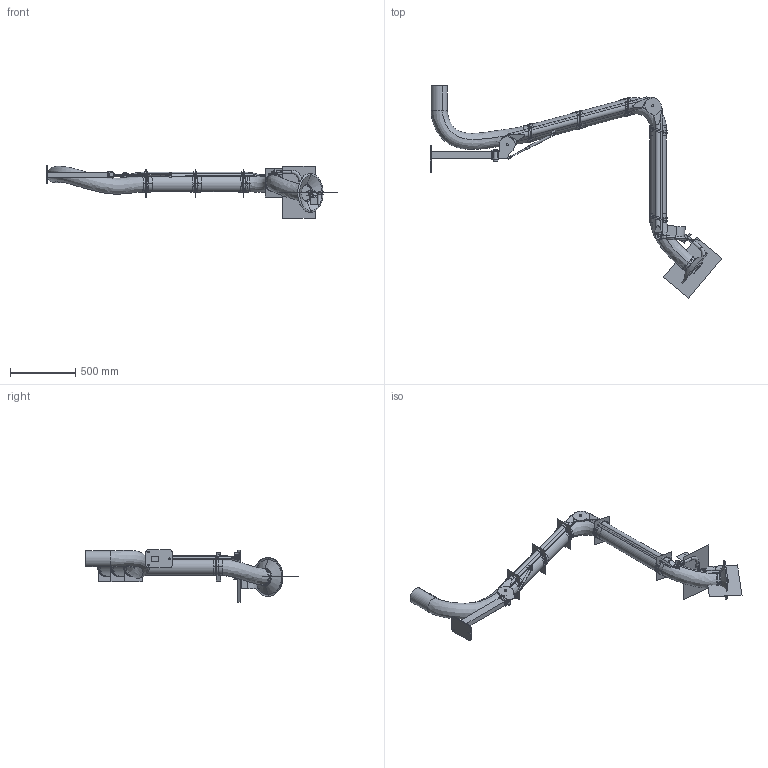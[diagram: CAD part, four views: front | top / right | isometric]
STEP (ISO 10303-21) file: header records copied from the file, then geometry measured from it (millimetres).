
FILE_DESCRIPTION((''),'2;1');
FILE_NAME('131012','2020-01-16T09:36:24',('Tomas Bellgran'),(''),'CREO PARAMETRIC BY PTC INC, 2018260','CREO PARAMETRIC BY PTC INC, 2018260','');
FILE_SCHEMA(('AUTOMOTIVE_DESIGN { 1 0 10303 214 1 1 1 1 }'));
Products named in the file (33): 131085_LIGHT; 131041; 131045_LIGHT; 131045; 144355; 131150; 139381; 131151; 131171; 144356; 131125_LIGHT; 131125; 131111_LIGHT; 131111; 130317; ROD_STAB_8-160-REF; 131095; 130322_AF22; 131145; 131131_AF0; 131134_AF0; 131139; 107522; 107542; 139634; 139615; 139614; 139629; SKRUVSATS_LITEN; SKRUVSATS_BIG; SKRUVSATS_LITEN-2; SKRUVSATS_BIGGEST; 131012
Assembly tree (52 placements, depth 3):
  131012
    131041
      131085_LIGHT
    131045
      131045_LIGHT
    144355  x4
    131150
    131171
      139381
      131151
    144356  x2
    131125
      131125_LIGHT
    131111
      131111_LIGHT
    130322_AF22
      130317
      ROD_STAB_8-160-REF
      131095  x2
    131145  x2
    131139  x5
      131131_AF0
      131134_AF0
    107522  x5
    107542
    139629
      139634  x3
      139615
      139614
    SKRUVSATS_LITEN  x2
    SKRUVSATS_BIG  x2
    SKRUVSATS_LITEN-2  x2
    SKRUVSATS_BIGGEST  x2
Bounding box: 2229.14 x 1623.53 x 404.5 mm (x, y, z)
Volume: 44388992.8 mm3; surface area: 3142063.4 mm2
Topology: 48 solids, 90 shells, 1224 faces, 2859 edges, 1771 vertices
Faces by surface type: cylinder 403, plane 358, bspline 326, torus 90, cone 34, extrusion 13
Entity records: 72322 total; most frequent: CARTESIAN_POINT 33527, POLYLINE 5532, DIRECTION 3623, ORIENTED_EDGE 2940, PRESENTATION_STYLE_ASSIGNMENT 2170, STYLED_ITEM 2127, CURVE_STYLE 1591, EDGE_CURVE 1565
